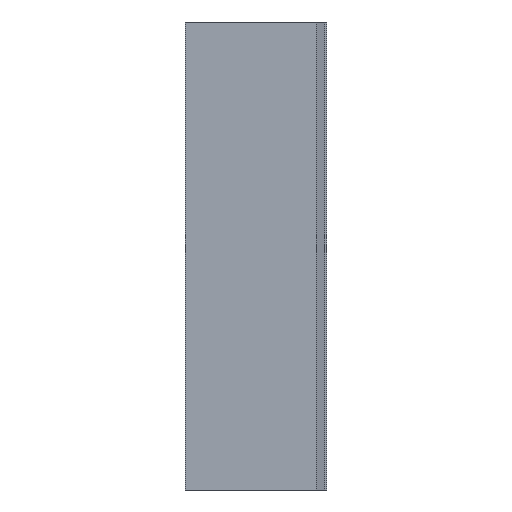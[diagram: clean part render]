
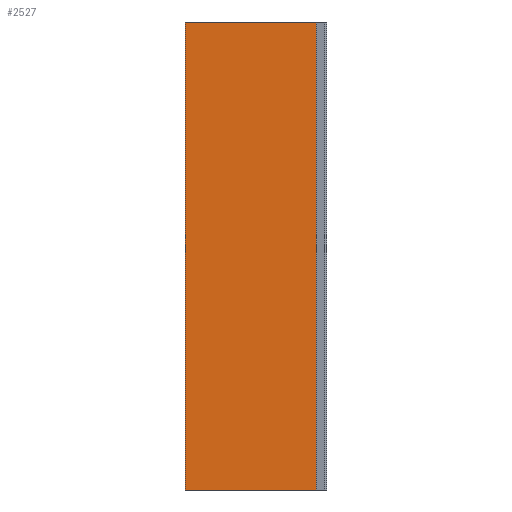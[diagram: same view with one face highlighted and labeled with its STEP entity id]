
A CAD part, left-side view. The second image highlights one B-rep face of the part: STEP entity #2527.
In plain terms, the highlighted planar face has unit normal (-1, 0, 0).
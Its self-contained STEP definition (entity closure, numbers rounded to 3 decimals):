
#117=FACE_OUTER_BOUND('',#241,.T.);
#241=EDGE_LOOP('',(#2071,#2072,#2073,#2074));
#396=LINE('',#3553,#756);
#564=LINE('',#3889,#924);
#565=LINE('',#3891,#925);
#566=LINE('',#3892,#926);
#756=VECTOR('',#2901,10.);
#924=VECTOR('',#3181,10.);
#925=VECTOR('',#3182,10.);
#926=VECTOR('',#3183,10.);
#1072=VERTEX_POINT('',#3550);
#1073=VERTEX_POINT('',#3552);
#1185=VERTEX_POINT('',#3888);
#1186=VERTEX_POINT('',#3890);
#1356=EDGE_CURVE('',#1072,#1073,#396,.T.);
#1524=EDGE_CURVE('',#1185,#1072,#564,.T.);
#1525=EDGE_CURVE('',#1186,#1185,#565,.T.);
#1526=EDGE_CURVE('',#1186,#1073,#566,.T.);
#2071=ORIENTED_EDGE('',*,*,#1524,.F.);
#2072=ORIENTED_EDGE('',*,*,#1525,.F.);
#2073=ORIENTED_EDGE('',*,*,#1526,.T.);
#2074=ORIENTED_EDGE('',*,*,#1356,.F.);
#2404=PLANE('',#2652);
#2527=ADVANCED_FACE('',(#117),#2404,.T.);
#2652=AXIS2_PLACEMENT_3D('',#3887,#3179,#3180);
#2901=DIRECTION('',(0.,0.,1.));
#3179=DIRECTION('center_axis',(-1.,0.,0.));
#3180=DIRECTION('ref_axis',(0.,0.,1.));
#3181=DIRECTION('',(0.,1.,0.));
#3182=DIRECTION('',(0.,0.,-1.));
#3183=DIRECTION('',(0.,1.,0.));
#3550=CARTESIAN_POINT('',(-5.,28.,0.));
#3552=CARTESIAN_POINT('',(-5.,28.,100.));
#3553=CARTESIAN_POINT('',(-5.,28.,75.));
#3887=CARTESIAN_POINT('Origin',(-5.,1.5,50.));
#3888=CARTESIAN_POINT('',(-5.,0.,0.));
#3889=CARTESIAN_POINT('',(-5.,2.25,0.));
#3890=CARTESIAN_POINT('',(-5.,0.,100.));
#3891=CARTESIAN_POINT('',(-5.,0.,25.));
#3892=CARTESIAN_POINT('',(-5.,3.,100.));
